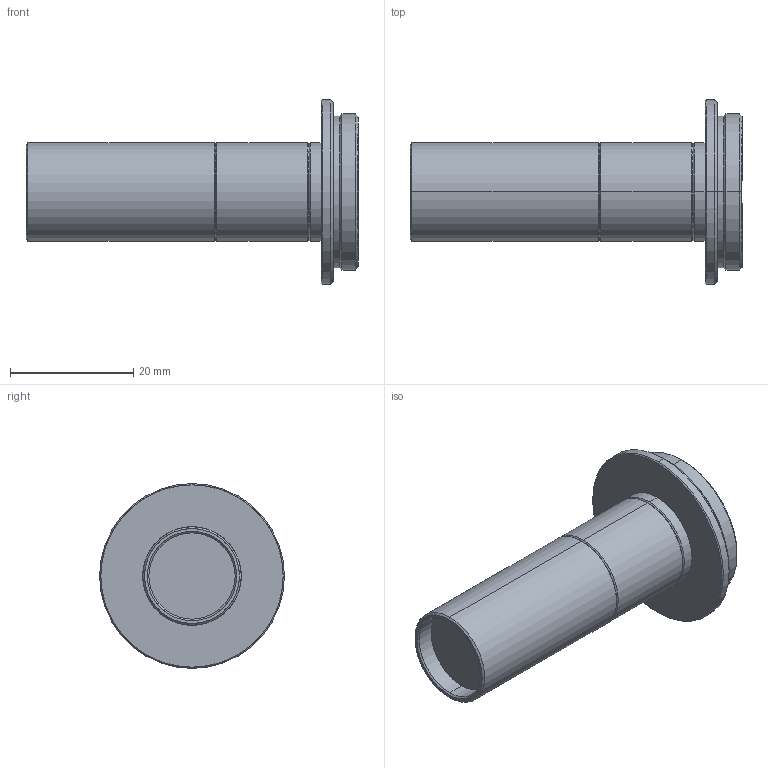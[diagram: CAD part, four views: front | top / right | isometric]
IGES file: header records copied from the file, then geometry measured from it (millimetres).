
Start section: SolidWorks IGES file using analytic representation for surfaces
Global section: file name: C:\Users\sugita_vst\Desktop\丒VS-MC075-70  (3D儌僨儖) 仯\VS-MC075-70.IGS; native system: SolidWorks 2018; preprocessor: SolidWorks 2018; author: sugita_vst; date: 190619.152746; units: millimetre
Bounding box: 53.91 x 30 x 30 mm (x, y, z)
Surface area: 4846.5 mm2 (no closed solid volume)
Topology: 0 solids, 0 shells, 52 faces, 688 edges, 688 vertices
Faces by surface type: revolution 44, bspline 8
